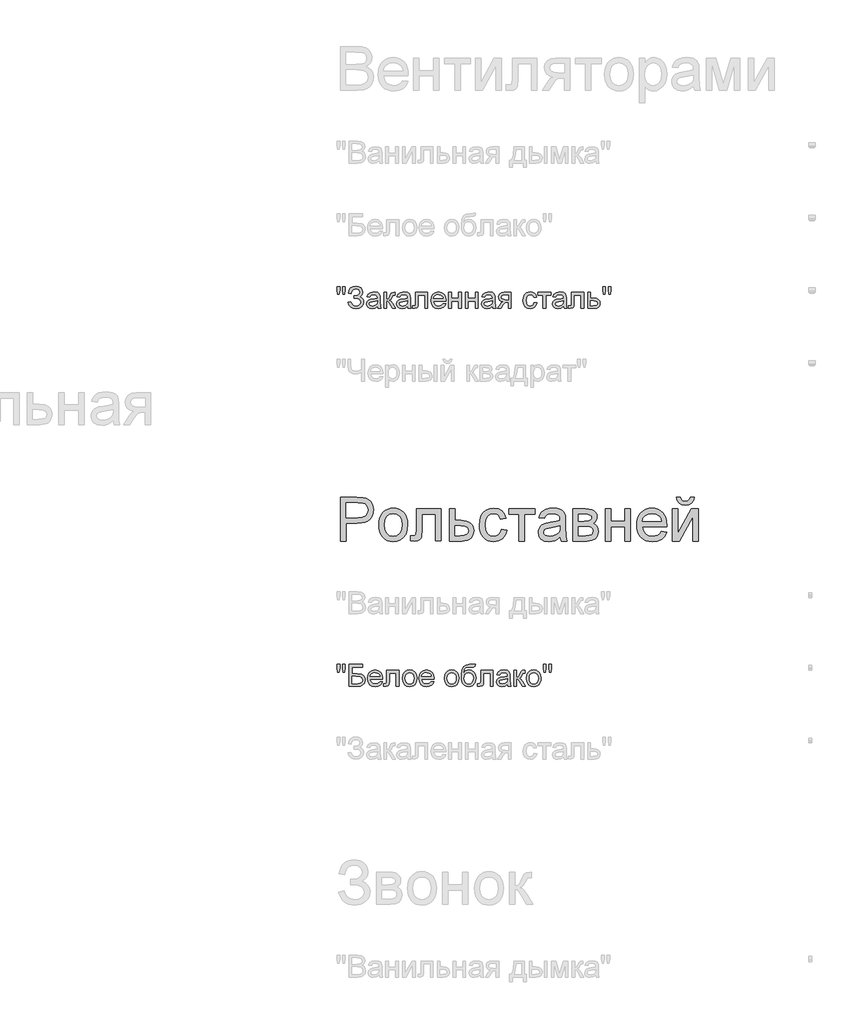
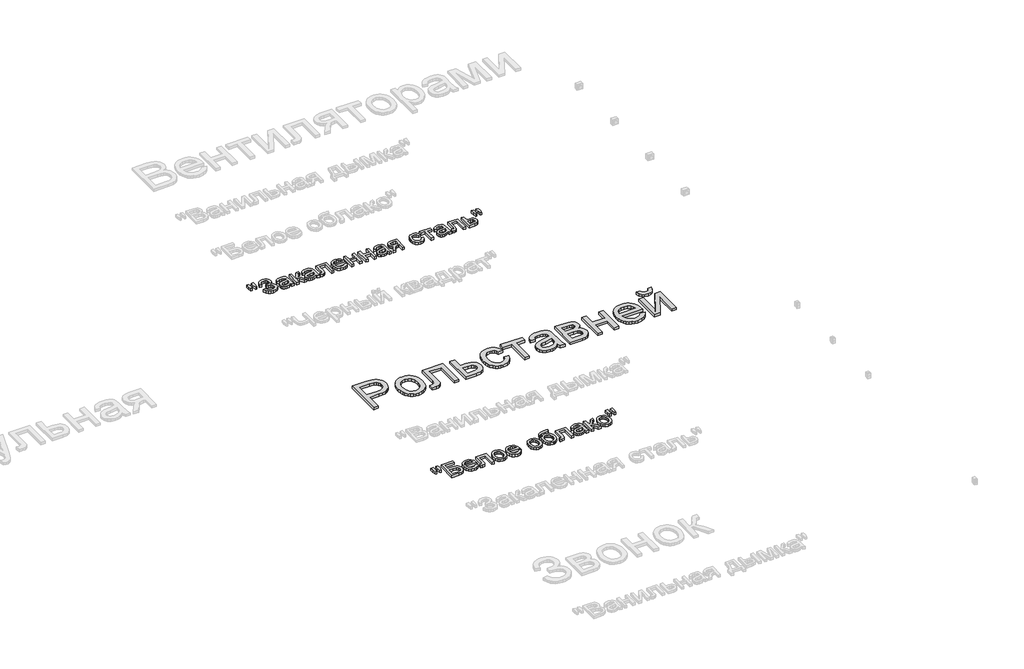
# One storey, part 70 of 168: 3 proxies.
"""IFC4 building model written with IfcOpenShell, lengths in millimetres."""

from ifc_helpers import new_model, si_unit, origin, origin_with_axes, place, context, project, spatial, polyline, outline, extrude, element, save

model = new_model("IFC4")

# Units and contexts
model_context = context("Model", 3, world=origin())
ifc_project = project(units=[si_unit("LENGTHUNIT", "METRE", prefix="MILLI")], contexts=[model_context])

# Site, building, storey
site = spatial("IfcSite", under=ifc_project)
building = spatial("IfcBuilding", under=site)
storey = spatial("IfcBuildingStorey", under=building, Name="Этаж 01", Elevation=0.0)

# Proxies
placement = place(None, origin())
element("IfcBuildingElementProxy", 1, Name="300 мм Arial 2", ObjectType="300 мм Arial 2", at=placement, inside=storey, context=model_context, shape_type="SweptSolid", body=[
    extrude(outline(polyline([(54408.7231967, -35066.8622977), (54408.7231967, -34765.4933673), (54520.4121704, -34765.4933673), (54565.4409266, -34768.3628468), (54585.5180865, -34773.7247269), (54602.0451851, -34782.4527273), (54615.3533163, -34794.942321), (54625.7735738, -34811.5889813), (54632.5058143, -34831.2246828), (54634.7498945, -34852.6814001), (54633.2346805, -34871.181266), (54628.6890386, -34888.2004068), (54621.1129688, -34903.7388225), (54610.506471, -34917.7965133), (54595.9452418, -34929.4491755), (54576.5049776, -34937.7725056), (54552.1856785, -34942.7665037), (54522.9873444, -34944.4311697), (54446.394313, -34944.4311697), (54446.394313, -35066.8622977), (54408.7231967, -35066.8622977)]), holes=[polyline([(54446.394313, -34906.7600534), (54525.1946364, -34906.7600534), (54558.5983215, -34903.3019627), (54580.6712412, -34892.9276904), (54592.976894, -34876.2810301), (54597.0787782, -34854.0057753), (54594.6599541, -34837.0832035), (54587.4034817, -34822.8093821), (54576.210672, -34812.0672279), (54561.9828359, -34805.7396576), (54524.3117196, -34803.1644836), (54446.394313, -34803.1644836), (54446.394313, -34906.7600534)])]), origin_with_axes(), (0.0, 0.0, 1.0), 20.0),
    extrude(outline(polyline([(54672.4210108, -34956.2033936), (54674.4581574, -34927.5407876), (54680.569597, -34902.8421102), (54690.7553298, -34882.1073612), (54705.0153556, -34865.3365408), (54719.3719505, -34854.6173791), (54735.2184674, -34846.9608351), (54752.5549064, -34842.3669087), (54771.3812675, -34840.8355999), (54792.164301, -34842.7003018), (54810.9561732, -34848.2944073), (54827.756884, -34857.6179167), (54842.5664336, -34870.6708297), (54854.6536564, -34887.0116881), (54863.287387, -34906.1990334), (54868.4676253, -34928.2328656), (54870.1943714, -34953.1131848), (54867.1409509, -34991.1705772), (54857.9806892, -35020.1412843), (54842.9803008, -35041.837125), (54822.4065003, -35058.069918), (54797.9699387, -35068.19587), (54771.3812675, -35071.5711873), (54750.2947314, -35069.7133832), (54731.3281153, -35064.139971), (54714.4814192, -35054.8509506), (54699.7546431, -35041.8463221), (54687.796179, -35025.3468146), (54679.2544189, -35005.5731573), (54674.1293628, -34982.5253503), (54672.4210108, -34956.2033936)]), holes=[polyline([(54710.0921271, -34956.1298172), (54714.4515288, -34990.2232811), (54727.5297337, -35014.5126898), (54747.2114204, -35029.0532257), (54771.3812675, -35033.900071), (54795.44075, -35029.0256345), (54815.0856486, -35014.4023252), (54828.1638535, -34989.7910197), (54832.5232551, -34954.9525948), (54828.1362623, -34921.8524123), (54814.975284, -34897.8940973), (54795.3027943, -34883.3535615), (54771.3812675, -34878.5067162), (54747.2114204, -34883.3351674), (54727.5297337, -34897.820521), (54714.4515288, -34922.0547474), (54710.0921271, -34956.1298172)])]), origin_with_axes(), (0.0, 0.0, 1.0), 20.0),
    extrude(outline(polyline([(54931.4099354, -34845.5444894), (55100.9299588, -34845.5444894), (55100.9299588, -35066.6415685), (55063.2588425, -35066.6415685), (55063.2588425, -34883.2156057), (54969.0810517, -34883.2156057), (54969.0810517, -34988.7977384), (54966.542666, -35037.5053145), (54961.7877912, -35048.5325773), (54952.5999383, -35058.069918), (54938.6572107, -35064.6642028), (54919.6377116, -35066.8622977), (54889.0299296, -35064.9493114), (54889.0299296, -35029.1911814), (54905.878925, -35029.1911814), (54922.9118613, -35026.8735249), (54929.7176782, -35019.515885), (54931.4099354, -34986.6640228), (54931.4099354, -34845.5444894)])), origin_with_axes(), (0.0, 0.0, 1.0), 20.0),
    extrude(outline(polyline([(55157.4366333, -34845.5444894), (55195.1077496, -34845.5444894), (55195.1077496, -34925.5956116), (55238.517825, -34925.5956116), (55276.1521531, -34930.3136982), (55291.2996943, -34936.2113064), (55304.0008201, -34944.4679579), (55314.0439986, -34954.7985442), (55321.2176975, -34966.9179567), (55326.9566566, -34996.5232603), (55322.0730232, -35023.4798135), (55307.4221227, -35046.2241178), (55296.1902255, -35055.2533215), (55282.029068, -35061.7027528), (55244.9189717, -35066.8622977), (55157.4366333, -35066.8622977), (55157.4366333, -34845.5444894)]), holes=[polyline([(55195.1077496, -35029.1911814), (55230.2772683, -35029.1911814), (55257.5649153, -35027.2138157), (55275.7106947, -35021.2817185), (55285.8918289, -35011.1557666), (55289.2855403, -34996.5968367), (55286.7747457, -34984.2911839), (55279.2423619, -34973.420271), (55263.1015393, -34965.8051137), (55234.7654287, -34963.2667279), (55195.1077496, -34963.2667279), (55195.1077496, -35029.1911814)])]), origin_with_axes(), (0.0, 0.0, 1.0), 20.0),
    extrude(outline(polyline([(55515.3122382, -34986.8111756), (55552.9833545, -34991.5200651), (55542.4803235, -35025.0249178), (55522.7434545, -35050.3443962), (55495.6305514, -35066.2644895), (55462.9994185, -35071.5711873), (55441.8714956, -35069.720281), (55422.9278721, -35064.1675621), (55406.168548, -35054.9130307), (55391.5935232, -35041.9566867), (55379.7960075, -35025.5422519), (55371.3692105, -35005.9134482), (55366.3131323, -34983.0702755), (55364.6277729, -34957.012734), (55367.5064496, -34923.4894872), (55376.1424794, -34894.4360066), (55390.6738182, -34870.9743324), (55411.2384217, -34854.2265045), (55435.8405302, -34844.1833261), (55462.4843837, -34840.8355999), (55494.3153733, -34845.4341248), (55519.7636103, -34859.2296997), (55538.0197543, -34881.4865604), (55548.2744649, -34911.468943), (55510.6033486, -34916.1778325), (55503.7699406, -34899.7427044), (55493.1289539, -34887.9612835), (55479.2689997, -34880.870358), (55462.7786893, -34878.5067162), (55438.4340982, -34883.1604234), (55419.1110964, -34897.1215452), (55406.501941, -34921.1442394), (55402.2988893, -34955.9826644), (55406.4099705, -34991.2901389), (55418.7432144, -35015.3956066), (55437.7167283, -35029.2739549), (55461.7486197, -35033.900071), (55481.2555625, -35031.0121973), (55497.2492322, -35022.3485763), (55508.8835003, -35007.6884788), (55515.3122382, -34986.8111756)])), origin_with_axes(), (0.0, 0.0, 1.0), 20.0),
    extrude(outline(polyline([(55567.1100231, -34845.5444894), (55746.0478255, -34845.5444894), (55746.0478255, -34883.2156057), (55675.4144825, -34883.2156057), (55675.4144825, -35066.8622977), (55637.7433662, -35066.8622977), (55637.7433662, -34883.2156057), (55567.1100231, -34883.2156057), (55567.1100231, -34845.5444894)])), origin_with_axes(), (0.0, 0.0, 1.0), 20.0),
    extrude(outline(polyline([(55920.2767385, -35038.6089605), (55902.2781118, -35054.0416102), (55883.7460563, -35064.139971), (55864.2575076, -35069.7133832), (55843.3894015, -35071.5711873), (55811.9078997, -35067.101421), (55788.6853488, -35053.6921223), (55774.3655421, -35033.3298539), (55769.5922732, -35008.0011785), (55771.394895, -34992.3845878), (55776.8027603, -34978.2027369), (55785.1444846, -34966.0626311), (55795.7486831, -34956.5712756), (55822.1258221, -34944.2104405), (55854.7201669, -34938.5450578), (55893.2374118, -34932.5853695), (55920.0560093, -34925.5956116), (55920.2767385, -34917.2079021), (55917.6831704, -34900.3956949), (55909.9024662, -34889.3960233), (55892.5016478, -34881.229043), (55868.2582243, -34878.5067162), (55845.8174226, -34880.318535), (55830.1456496, -34885.7539915), (55819.4586777, -34895.806367), (55811.9722791, -34911.468943), (55774.3011628, -34906.7600534), (55780.8402652, -34886.1586617), (55790.5983352, -34869.9718539), (55804.4858805, -34857.5926248), (55823.4134091, -34848.413969), (55846.5623837, -34842.7301922), (55873.1142667, -34840.8355999), (55898.5808978, -34842.509463), (55918.7684223, -34847.5310522), (55933.9895398, -34855.0818302), (55944.5569501, -34864.3432594), (55951.5651022, -34875.7935865), (55956.1084448, -34889.9110581), (55957.9478548, -34922.8732848), (55957.9478548, -34969.741451), (55959.8608411, -35035.1876579), (55967.3656338, -35066.8622977), (55929.6945175, -35066.8622977), (55920.2767385, -35038.6089605)]), holes=[polyline([(55920.2767385, -34963.2667279), (55859.5026329, -34974.8182225), (55827.0922291, -34980.9250637), (55812.4137375, -34990.8578775), (55807.2633895, -35005.3524281), (55810.0684898, -35016.5544349), (55818.4837904, -35025.7330907), (55832.3253505, -35031.8583259), (55851.409229, -35033.900071), (55871.6427387, -35031.6467937), (55889.5218037, -35024.8869621), (55904.0163543, -35014.9265571), (55914.0963209, -35003.0715598), (55918.5660872, -34990.8578775), (55920.0560093, -34973.9353058), (55920.2767385, -34963.2667279)])]), origin_with_axes(), (0.0, 0.0, 1.0), 20.0),
    extrude(outline(polyline([(56009.7456397, -34845.5444894), (56092.7398178, -34845.5444894), (56119.4204595, -34846.8044853), (56138.2468206, -34850.5844728), (56152.0975777, -34857.7213835), (56163.8514075, -34869.0521489), (56171.880432, -34883.813414), (56174.5567735, -34901.2418235), (56172.9380927, -34915.2857187), (56168.0820504, -34927.3982334), (56159.9702524, -34937.6345499), (56148.5843047, -34946.0498505), (56162.5270323, -34953.87654), (56173.8945859, -34966.4673013), (56181.4545609, -34982.828853), (56183.9745526, -35001.9679138), (56177.5918, -35030.6811035), (56162.4166677, -35050.8962191), (56138.3939734, -35062.8707781), (56105.4685348, -35066.8622977), (56009.7456397, -35066.8622977), (56009.7456397, -34845.5444894)]), holes=[polyline([(56047.416756, -34930.3045011), (56084.6464139, -34930.3045011), (56115.3645605, -34928.3915147), (56130.3005695, -34920.7395692), (56135.2393853, -34914.4119989), (56136.8856572, -34906.9072062), (56133.9977836, -34895.6684113), (56125.3341626, -34888.4395301), (56109.6807837, -34884.5215868), (56085.8236363, -34883.2156057), (56047.416756, -34883.2156057), (56047.416756, -34930.3045011)]), polyline([(56047.416756, -35029.1911814), (56093.6227346, -35029.1911814), (56118.8042572, -35027.4897272), (56134.6047889, -35022.3853645), (56143.0844688, -35013.1055412), (56146.3034363, -34998.877705), (56144.6939526, -34989.4507289), (56139.8655014, -34980.7411227), (56132.4526792, -34973.9261087), (56123.0900824, -34970.1829094), (56089.9439146, -34967.9756174), (56047.416756, -34967.9756174), (56047.416756, -35029.1911814)])]), origin_with_axes(), (0.0, 0.0, 1.0), 20.0),
    extrude(outline(polyline([(56231.063448, -34845.5444894), (56268.7345643, -34845.5444894), (56268.7345643, -34930.3045011), (56367.6212446, -34930.3045011), (56367.6212446, -34845.5444894), (56405.2923609, -34845.5444894), (56405.2923609, -35066.8622977), (56367.6212446, -35066.8622977), (56367.6212446, -34967.9756174), (56268.7345643, -34967.9756174), (56268.7345643, -35066.8622977), (56231.063448, -35066.8622977), (56231.063448, -34845.5444894)])), origin_with_axes(), (0.0, 0.0, 1.0), 20.0),
    extrude(outline(polyline([(56616.7509317, -35000.9378442), (56653.686284, -35005.6467337), (56640.3781529, -35033.4770067), (56619.1421647, -35054.2807335), (56590.4565661, -35067.2485738), (56554.7996037, -35071.5711873), (56531.4253015, -35069.7064854), (56510.598582, -35064.1123798), (56492.3194454, -35054.7888705), (56476.5878916, -35041.7359575), (56463.9373495, -35025.3169242), (56454.901248, -35005.8950541), (56449.479587, -34983.4703472), (56447.6723667, -34958.0428036), (56449.4979811, -34931.7530365), (56454.9748244, -34908.5810693), (56464.1028964, -34888.526902), (56476.8821972, -34871.5905347), (56492.5723643, -34858.1352507), (56510.4330351, -34848.5243336), (56530.4642098, -34842.7577833), (56552.6658882, -34840.8355999), (56574.152496, -34842.7531848), (56593.5835631, -34848.5059395), (56610.9590896, -34858.093864), (56626.2790754, -34871.5169583), (56638.784764, -34888.4165374), (56647.7173987, -34908.4339165), (56653.0769795, -34931.5690955), (56654.8635064, -34957.8220744), (56654.6427772, -34967.9756174), (56485.3434831, -34967.9756174), (56491.8641914, -34996.1737724), (56507.0117326, -35016.9039228), (56528.8731201, -35029.6510339), (56555.5353677, -35033.900071), (56575.5849365, -35031.9319023), (56592.47072, -35026.0273963), (56606.1927185, -35015.8186709), (56616.7509317, -35000.9378442)]), holes=[polyline([(56485.3434831, -34930.3045011), (56617.1923901, -34930.3045011), (56612.0972245, -34910.4020852), (56602.1092283, -34896.165052), (56580.1466732, -34882.9213001), (56552.5187354, -34878.5067162), (56527.1256807, -34882.0291863), (56506.1288158, -34892.5965966), (56491.5330976, -34909.068513), (56485.3434831, -34930.3045011)])]), origin_with_axes(), (0.0, 0.0, 1.0), 20.0),
    extrude(outline(polyline([(56692.5346227, -34845.5444894), (56730.205739, -34845.5444894), (56730.205739, -35014.3287488), (56822.764849, -34845.5444894), (56871.4724252, -34845.5444894), (56871.4724252, -35066.8622977), (56833.8013089, -35066.8622977), (56833.8013089, -34899.1081079), (56741.8308101, -35066.8622977), (56692.5346227, -35066.8622977), (56692.5346227, -34845.5444894)])), origin_with_axes(), (0.0, 0.0, 1.0), 20.0),
    extrude(outline(polyline([(56814.9657507, -34765.4933673), (56843.219088, -34765.4933673), (56837.139838, -34789.6172291), (56824.9353528, -34807.3951265), (56807.1574554, -34818.3488129), (56784.3579687, -34822.0000417), (56759.6179046, -34818.3764041), (56740.4328585, -34807.5054911), (56727.3178654, -34789.7551849), (56720.78796, -34765.4933673), (56749.0412972, -34765.4933673), (56753.0144227, -34777.9001876), (56759.6362987, -34786.7201584), (56768.9437131, -34791.990068), (56780.9734544, -34793.7467045), (56794.5483, -34792.0452503), (56804.3707493, -34786.9408876), (56810.9926252, -34778.1760991), (56814.9657507, -34765.4933673)])), origin_with_axes(), (0.0, 0.0, 1.0), 20.0),
])
element("IfcBuildingElementProxy", 2, Name="150", ObjectType="150", at=placement, inside=storey, context=model_context, shape_type="SweptSolid", body=[
    extrude(outline(polyline([(54389.7772739, -33370.3300622), (54385.178749, -33341.2305964), (54385.178749, -33316.1778325), (54404.0143071, -33316.1778325), (54404.0143071, -33341.2305964), (54399.8940288, -33370.3300622), (54389.7772739, -33370.3300622)])), origin_with_axes(), (0.0, 0.0, 1.0), 20.0),
    extrude(outline(polyline([(54427.3380256, -33370.3300622), (54422.8498653, -33341.2305964), (54422.8498653, -33316.1778325), (54441.6854234, -33316.1778325), (54441.6854234, -33341.2305964), (54437.2708395, -33370.3300622), (54427.3380256, -33370.3300622)])), origin_with_axes(), (0.0, 0.0, 1.0), 20.0),
    extrude(outline(polyline([(54460.5209816, -33424.4822919), (54479.3565398, -33419.7734024), (54490.9264285, -33440.172459), (54501.8571223, -33447.829003), (54515.8504337, -33450.3811843), (54530.0276861, -33448.4635995), (54540.8480152, -33442.7108448), (54547.7044159, -33434.2449603), (54549.9898828, -33424.1879863), (54547.4928838, -33413.6527657), (54540.0018867, -33405.517975), (54528.2066702, -33400.3170433), (54512.7970131, -33398.5833994), (54502.9009874, -33398.5833994), (54502.9009874, -33379.7478413), (54524.2197491, -33378.221131), (54537.2611658, -33370.4220327), (54542.9265485, -33356.1666054), (54541.0411533, -33347.2960508), (54535.3849676, -33339.6670979), (54526.5098145, -33334.4109839), (54514.9675169, -33332.6589459), (54495.7456826, -33338.0484171), (54484.746011, -33352.3406326), (54481.7109845, -33365.6211727), (54462.8754264, -33360.9122831), (54468.7270494, -33340.3108914), (54479.3289486, -33325.5956116), (54494.6811241, -33316.7664437), (54514.7835759, -33313.8233877), (54534.1755556, -33316.8814068), (54549.0885719, -33326.0554641), (54558.593723, -33339.3222085), (54561.7621067, -33354.6582892), (54556.8324879, -33373.3007093), (54542.0436317, -33387.2158458), (54552.5190715, -33392.0396984), (54561.1367073, -33400.1836861), (54566.9032576, -33410.948833), (54568.825441, -33423.6361633), (54565.137424, -33441.4738415), (54554.073373, -33456.1385376), (54536.9208749, -33465.9471913), (54514.9675169, -33469.2167425), (54495.8652443, -33466.4208393), (54480.4233975, -33458.0331298), (54468.6419766, -33444.053614), (54460.5209816, -33424.4822919)])), origin_with_axes(), (0.0, 0.0, 1.0), 20.0),
    extrude(outline(polyline([(54663.0032317, -33452.7356291), (54644.7378907, -33465.5011344), (54624.5595633, -33469.2167425), (54608.8188124, -33466.9818594), (54597.2075369, -33460.27721), (54590.0476336, -33450.0960758), (54587.6609991, -33437.4317381), (54591.2662427, -33422.5325173), (54600.7392041, -33411.7167867), (54613.9277736, -33405.5363691), (54630.224946, -33402.7036778), (54662.8928671, -33396.2289547), (54663.0032317, -33392.0350999), (54661.7064477, -33383.6289963), (54657.8160956, -33378.1291605), (54649.1156864, -33374.0456704), (54636.9939747, -33372.684507), (54617.9376873, -33376.3081446), (54608.8510021, -33389.1656204), (54590.0154439, -33386.8111756), (54598.1640301, -33368.4170758), (54614.5715671, -33357.6381334), (54639.4219959, -33353.8489488), (54662.2490737, -33357.196675), (54675.1433376, -33365.6027786), (54680.9190849, -33378.3866779), (54681.8387899, -33394.8677913), (54681.8387899, -33418.3018744), (54682.7952831, -33451.0249778), (54686.5476794, -33466.8622977), (54667.7121213, -33466.8622977), (54663.0032317, -33452.7356291)]), holes=[polyline([(54663.0032317, -33415.0645128), (54632.6161789, -33420.8402601), (54616.4109771, -33423.8936807), (54609.0717313, -33428.8600876), (54606.4965573, -33436.1073629), (54612.1067577, -33446.2976942), (54628.569477, -33450.3811843), (54647.6257643, -33445.8746299), (54659.913023, -33434.9669288), (54662.8928671, -33420.3988017), (54663.0032317, -33415.0645128)])]), origin_with_axes(), (0.0, 0.0, 1.0), 20.0),
    extrude(outline(polyline([(54707.7376824, -33356.2033936), (54726.5732405, -33356.2033936), (54726.5732405, -33403.292289), (54739.1915929, -33399.9077746), (54749.529077, -33380.1892997), (54758.1191216, -33363.1747574), (54765.6974907, -33357.6381334), (54779.4746714, -33356.2033936), (54783.079915, -33356.2033936), (54783.079915, -33375.1493163), (54778.0031434, -33375.0389517), (54768.8060936, -33377.0255145), (54762.3313704, -33389.4231377), (54754.7346072, -33402.8324365), (54744.0844235, -33409.3991301), (54755.9670119, -33416.7291788), (54767.6288712, -33432.1710256), (54787.7888045, -33466.8622977), (54766.3780724, -33466.8622977), (54746.6228092, -33432.9067896), (54736.6899954, -33418.5409977), (54726.5732405, -33415.0645128), (54726.5732405, -33466.8622977), (54707.7376824, -33466.8622977), (54707.7376824, -33356.2033936)])), origin_with_axes(), (0.0, 0.0, 1.0), 20.0),
    extrude(outline(polyline([(54870.1943714, -33452.7356291), (54851.9290304, -33465.5011344), (54831.7507029, -33469.2167425), (54816.0099521, -33466.9818594), (54804.3986766, -33460.27721), (54797.2387733, -33450.0960758), (54794.8521388, -33437.4317381), (54798.4573824, -33422.5325173), (54807.9303437, -33411.7167867), (54821.1189133, -33405.5363691), (54837.4160857, -33402.7036778), (54870.0840068, -33396.2289547), (54870.1943714, -33392.0350999), (54868.8975874, -33383.6289963), (54865.0072353, -33378.1291605), (54856.3068261, -33374.0456704), (54844.1851144, -33372.684507), (54825.128827, -33376.3081446), (54816.0421417, -33389.1656204), (54797.2065836, -33386.8111756), (54805.3551698, -33368.4170758), (54821.7627068, -33357.6381334), (54846.6131355, -33353.8489488), (54869.4402133, -33357.196675), (54882.3344773, -33365.6027786), (54888.1102246, -33378.3866779), (54889.0299296, -33394.8677913), (54889.0299296, -33418.3018744), (54889.9864228, -33451.0249778), (54893.7388191, -33466.8622977), (54874.903261, -33466.8622977), (54870.1943714, -33452.7356291)]), holes=[polyline([(54870.1943714, -33415.0645128), (54839.8073186, -33420.8402601), (54823.6021167, -33423.8936807), (54816.2628709, -33428.8600876), (54813.687697, -33436.1073629), (54819.2978974, -33446.2976942), (54835.7606167, -33450.3811843), (54854.816904, -33445.8746299), (54867.1041627, -33434.9669288), (54870.0840068, -33420.3988017), (54870.1943714, -33415.0645128)])]), origin_with_axes(), (0.0, 0.0, 1.0), 20.0),
    extrude(outline(polyline([(54924.3466011, -33356.2033936), (55009.1066128, -33356.2033936), (55009.1066128, -33466.7519331), (54990.2710547, -33466.7519331), (54990.2710547, -33375.0389517), (54943.1821593, -33375.0389517), (54943.1821593, -33427.830018), (54941.9129664, -33452.1838061), (54934.9416026, -33462.4661079), (54918.4604892, -33466.8622977), (54903.1565982, -33465.9058045), (54903.1565982, -33448.0267396), (54911.5810959, -33448.0267396), (54920.0975641, -33446.8679113), (54923.5004725, -33443.1890913), (54924.3466011, -33426.7631603), (54924.3466011, -33356.2033936)])), origin_with_axes(), (0.0, 0.0, 1.0), 20.0),
    extrude(outline(polyline([(55114.8358982, -33433.900071), (55133.3035744, -33436.2545157), (55126.6495088, -33450.1696522), (55116.0315147, -33460.5715156), (55101.6887154, -33467.0554358), (55083.8602342, -33469.2167425), (55061.7597234, -33465.4873388), (55044.7543781, -33454.2991276), (55033.9110563, -33436.3786759), (55030.2966157, -33412.4525506), (55033.9478445, -33387.7216835), (55044.9015309, -33369.2264162), (55061.6769499, -33357.6933157), (55082.7933764, -33353.8489488), (55103.2522139, -33357.6841186), (55119.5999701, -33369.189628), (55130.3191317, -33387.6481071), (55133.8921856, -33412.342186), (55133.781821, -33417.4189576), (55049.1321739, -33417.4189576), (55052.3925281, -33431.518035), (55059.9662986, -33441.8831103), (55070.8969924, -33448.2566658), (55084.2281162, -33450.3811843), (55102.6957924, -33446.444847), (55114.8358982, -33433.900071)]), holes=[polyline([(55049.1321739, -33398.5833994), (55115.0566274, -33398.5833994), (55112.5090446, -33388.6321915), (55107.5150465, -33381.5136749), (55096.533769, -33374.8917989), (55082.7198, -33372.684507), (55070.0232727, -33374.445742), (55059.5248402, -33379.7294472), (55052.2269812, -33387.9654053), (55049.1321739, -33398.5833994)])]), origin_with_axes(), (0.0, 0.0, 1.0), 20.0),
    extrude(outline(polyline([(55152.7277437, -33356.2033936), (55171.5633019, -33356.2033936), (55171.5633019, -33398.5833994), (55221.006642, -33398.5833994), (55221.006642, -33356.2033936), (55239.8422002, -33356.2033936), (55239.8422002, -33466.8622977), (55221.006642, -33466.8622977), (55221.006642, -33417.4189576), (55171.5633019, -33417.4189576), (55171.5633019, -33466.8622977), (55152.7277437, -33466.8622977), (55152.7277437, -33356.2033936)])), origin_with_axes(), (0.0, 0.0, 1.0), 20.0),
    extrude(outline(polyline([(55268.0955374, -33356.2033936), (55286.9310956, -33356.2033936), (55286.9310956, -33398.5833994), (55336.3744357, -33398.5833994), (55336.3744357, -33356.2033936), (55355.2099939, -33356.2033936), (55355.2099939, -33466.8622977), (55336.3744357, -33466.8622977), (55336.3744357, -33417.4189576), (55286.9310956, -33417.4189576), (55286.9310956, -33466.8622977), (55268.0955374, -33466.8622977), (55268.0955374, -33356.2033936)])), origin_with_axes(), (0.0, 0.0, 1.0), 20.0),
    extrude(outline(polyline([(55454.0966742, -33452.7356291), (55435.8313331, -33465.5011344), (55415.6530057, -33469.2167425), (55399.9122548, -33466.9818594), (55388.3009793, -33460.27721), (55381.141076, -33450.0960758), (55378.7544416, -33437.4317381), (55382.3596851, -33422.5325173), (55391.8326465, -33411.7167867), (55405.021216, -33405.5363691), (55421.3183884, -33402.7036778), (55453.9863096, -33396.2289547), (55454.0966742, -33392.0350999), (55452.7998901, -33383.6289963), (55448.909538, -33378.1291605), (55440.2091289, -33374.0456704), (55428.0874171, -33372.684507), (55409.0311298, -33376.3081446), (55399.9444445, -33389.1656204), (55381.1088863, -33386.8111756), (55389.2574725, -33368.4170758), (55405.6650095, -33357.6381334), (55430.5154383, -33353.8489488), (55453.3425161, -33357.196675), (55466.23678, -33365.6027786), (55472.0125273, -33378.3866779), (55472.9322323, -33394.8677913), (55472.9322323, -33418.3018744), (55473.8887255, -33451.0249778), (55477.6411219, -33466.8622977), (55458.8055637, -33466.8622977), (55454.0966742, -33452.7356291)]), holes=[polyline([(55454.0966742, -33415.0645128), (55423.7096214, -33420.8402601), (55407.5044195, -33423.8936807), (55400.1651737, -33428.8600876), (55397.5899997, -33436.1073629), (55403.2002001, -33446.2976942), (55419.6629194, -33450.3811843), (55438.7192068, -33445.8746299), (55451.0064654, -33434.9669288), (55453.9863096, -33420.3988017), (55454.0966742, -33415.0645128)])]), origin_with_axes(), (0.0, 0.0, 1.0), 20.0),
    extrude(outline(polyline([(55583.5911365, -33356.2033936), (55583.5911365, -33466.8622977), (55564.7555783, -33466.8622977), (55564.7555783, -33424.4822919), (55554.4916707, -33424.4822919), (55540.5121548, -33426.8735249), (55527.3787676, -33442.949968), (55512.3691822, -33466.8622977), (55490.5905681, -33466.8622977), (55509.4997026, -33436.6223977), (55517.8506239, -33425.7698789), (55525.5393576, -33420.9506247), (55512.6634878, -33417.0050903), (55503.6135907, -33409.5094947), (55498.2609077, -33399.5398926), (55496.47668, -33388.172339), (55498.9138982, -33375.278075), (55506.2255529, -33365.0693497), (55518.1541266, -33358.4198826), (55534.4421019, -33356.2033936), (55583.5911365, -33356.2033936)]), holes=[polyline([(55564.7555783, -33375.0389517), (55539.9235436, -33375.0389517), (55527.0982576, -33376.1288021), (55519.8187926, -33379.3983534), (55515.3122382, -33389.6070787), (55516.9723057, -33396.7853762), (55521.9525082, -33401.7655787), (55545.4785618, -33405.6467337), (55564.7555783, -33405.6467337), (55564.7555783, -33375.0389517)])]), origin_with_axes(), (0.0, 0.0, 1.0), 20.0),
    extrude(outline(polyline([(55741.338936, -33426.8367367), (55760.1744942, -33429.1911814), (55754.9229787, -33445.9436078), (55745.0545442, -33458.6033469), (55731.4980926, -33466.5633936), (55715.1825262, -33469.2167425), (55695.146753, -33465.5149299), (55679.4795785, -33454.4094922), (55669.3674222, -33436.387873), (55665.9967034, -33411.9375159), (55667.4360417, -33395.1758924), (55671.7540566, -33380.6491522), (55679.019726, -33368.918315), (55689.3020278, -33360.5444011), (55701.603082, -33355.5228119), (55714.9250088, -33353.8489488), (55730.8405036, -33356.1482113), (55743.5646221, -33363.0459987), (55752.6926941, -33374.174429), (55757.8200494, -33389.1656204), (55738.9844912, -33391.5200651), (55730.2472939, -33377.4117906), (55715.0721616, -33372.684507), (55702.899866, -33375.0113606), (55693.2383651, -33381.9919214), (55686.9337874, -33394.0032686), (55684.8322615, -33411.4224811), (55686.8878022, -33429.0762183), (55693.0544241, -33441.1289522), (55702.5411811, -33448.0681263), (55714.5571268, -33450.3811843), (55724.3105982, -33448.9372475), (55732.307433, -33444.605437), (55738.1245671, -33437.2753883), (55741.338936, -33426.8367367)])), origin_with_axes(), (0.0, 0.0, 1.0), 20.0),
    extrude(outline(polyline([(55767.2378285, -33356.2033936), (55856.7067297, -33356.2033936), (55856.7067297, -33375.0389517), (55821.3900582, -33375.0389517), (55821.3900582, -33466.8622977), (55802.5545, -33466.8622977), (55802.5545, -33375.0389517), (55767.2378285, -33375.0389517), (55767.2378285, -33356.2033936)])), origin_with_axes(), (0.0, 0.0, 1.0), 20.0),
    extrude(outline(polyline([(55943.8211862, -33452.7356291), (55925.5558451, -33465.5011344), (55905.3775177, -33469.2167425), (55889.6367668, -33466.9818594), (55878.0254913, -33460.27721), (55870.865588, -33450.0960758), (55868.4789535, -33437.4317381), (55872.0841971, -33422.5325173), (55881.5571585, -33411.7167867), (55894.745728, -33405.5363691), (55911.0429004, -33402.7036778), (55943.7108216, -33396.2289547), (55943.8211862, -33392.0350999), (55942.5244021, -33383.6289963), (55938.63405, -33378.1291605), (55929.9336408, -33374.0456704), (55917.8119291, -33372.684507), (55898.7556417, -33376.3081446), (55889.6689565, -33389.1656204), (55870.8333983, -33386.8111756), (55878.9819845, -33368.4170758), (55895.3895215, -33357.6381334), (55920.2399503, -33353.8489488), (55943.0670281, -33357.196675), (55955.961292, -33365.6027786), (55961.7370393, -33378.3866779), (55962.6567443, -33394.8677913), (55962.6567443, -33418.3018744), (55963.6132375, -33451.0249778), (55967.3656338, -33466.8622977), (55948.5300757, -33466.8622977), (55943.8211862, -33452.7356291)]), holes=[polyline([(55943.8211862, -33415.0645128), (55913.4341334, -33420.8402601), (55897.2289315, -33423.8936807), (55889.8896857, -33428.8600876), (55887.3145117, -33436.1073629), (55892.9247121, -33446.2976942), (55909.3874314, -33450.3811843), (55928.4437188, -33445.8746299), (55940.7309774, -33434.9669288), (55943.7108216, -33420.3988017), (55943.8211862, -33415.0645128)])]), origin_with_axes(), (0.0, 0.0, 1.0), 20.0),
    extrude(outline(polyline([(55997.9734158, -33356.2033936), (56082.7334275, -33356.2033936), (56082.7334275, -33466.7519331), (56063.8978694, -33466.7519331), (56063.8978694, -33375.0389517), (56016.808974, -33375.0389517), (56016.808974, -33427.830018), (56015.5397811, -33452.1838061), (56008.5684173, -33462.4661079), (55992.0873039, -33466.8622977), (55976.7834129, -33465.9058045), (55976.7834129, -33448.0267396), (55985.2079106, -33448.0267396), (55993.7243788, -33446.8679113), (55997.1272873, -33443.1890913), (55997.9734158, -33426.7631603), (55997.9734158, -33356.2033936)])), origin_with_axes(), (0.0, 0.0, 1.0), 20.0),
    extrude(outline(polyline([(56110.9867648, -33356.2033936), (56129.8223229, -33356.2033936), (56129.8223229, -33396.2289547), (56151.5273606, -33396.2289547), (56170.3445247, -33398.587998), (56184.2688582, -33405.6651278), (56192.8772969, -33416.8901272), (56195.7467765, -33431.692779), (56193.3049597, -33445.1710556), (56185.9795095, -33456.5432078), (56173.2829821, -33464.2825252), (56154.727934, -33466.8622977), (56110.9867648, -33466.8622977), (56110.9867648, -33356.2033936)]), holes=[polyline([(56129.8223229, -33448.0267396), (56147.4070823, -33448.0267396), (56170.1237955, -33444.0720081), (56175.2143626, -33439.0090322), (56176.9112183, -33431.7295672), (56171.8896291, -33420.1412843), (56163.8192178, -33416.3337057), (56149.6511625, -33415.0645128), (56129.8223229, -33415.0645128), (56129.8223229, -33448.0267396)])]), origin_with_axes(), (0.0, 0.0, 1.0), 20.0),
    extrude(outline(polyline([(56219.1808595, -33370.3300622), (56214.5823346, -33341.2305964), (56214.5823346, -33316.1778325), (56233.4178928, -33316.1778325), (56233.4178928, -33341.2305964), (56229.2976144, -33370.3300622), (56219.1808595, -33370.3300622)])), origin_with_axes(), (0.0, 0.0, 1.0), 20.0),
    extrude(outline(polyline([(56256.7416113, -33370.3300622), (56252.2534509, -33341.2305964), (56252.2534509, -33316.1778325), (56271.0890091, -33316.1778325), (56271.0890091, -33341.2305964), (56266.6744251, -33370.3300622), (56256.7416113, -33370.3300622)])), origin_with_axes(), (0.0, 0.0, 1.0), 20.0),
])
element("IfcBuildingElementProxy", 3, Name="150", ObjectType="150", at=placement, inside=storey, context=model_context, shape_type="SweptSolid", body=[
    extrude(outline(polyline([(54389.7772739, -35970.3300622), (54385.178749, -35941.2305964), (54385.178749, -35916.1778325), (54404.0143071, -35916.1778325), (54404.0143071, -35941.2305964), (54399.8940288, -35970.3300622), (54389.7772739, -35970.3300622)])), origin_with_axes(), (0.0, 0.0, 1.0), 20.0),
    extrude(outline(polyline([(54427.3380256, -35970.3300622), (54422.8498653, -35941.2305964), (54422.8498653, -35916.1778325), (54441.6854234, -35916.1778325), (54441.6854234, -35941.2305964), (54437.2708395, -35970.3300622), (54427.3380256, -35970.3300622)])), origin_with_axes(), (0.0, 0.0, 1.0), 20.0),
    extrude(outline(polyline([(54467.5843159, -35916.1778325), (54561.7621067, -35916.1778325), (54561.7621067, -35935.0133907), (54486.4198741, -35935.0133907), (54486.4198741, -35979.7478413), (54521.6997574, -35979.7478413), (54552.785786, -35983.573814), (54563.1876494, -35989.101241), (54571.2902503, -35998.0315764), (54576.5049776, -36009.5278888), (54578.2432201, -36022.7532465), (54573.2952072, -36044.2191609), (54558.5247451, -36060.5347274), (54545.2534021, -36065.2804052), (54525.0842718, -36066.8622977), (54467.5843159, -36066.8622977), (54467.5843159, -35916.1778325)]), holes=[polyline([(54486.4198741, -36048.0267396), (54526.7765289, -36048.0267396), (54541.0411533, -36046.4724382), (54551.2406816, -36041.8095339), (54557.3659168, -36034.0380267), (54559.4076619, -36023.1579167), (54554.7355606, -36008.4058487), (54541.730932, -36000.533174), (54513.3488361, -35998.5833994), (54486.4198741, -35998.5833994), (54486.4198741, -36048.0267396)])]), origin_with_axes(), (0.0, 0.0, 1.0), 20.0),
    extrude(outline(polyline([(54679.2636159, -36033.900071), (54697.7312921, -36036.2545157), (54691.0772265, -36050.1696522), (54680.4592324, -36060.5715156), (54666.1164331, -36067.0554358), (54648.2879519, -36069.2167425), (54626.1874411, -36065.4873388), (54609.1820959, -36054.2991276), (54598.338774, -36036.3786759), (54594.7243334, -36012.4525506), (54598.3755622, -35987.7216835), (54609.3292486, -35969.2264162), (54626.1046676, -35957.6933157), (54647.2210942, -35953.8489488), (54667.6799316, -35957.6841186), (54684.0276878, -35969.189628), (54694.7468494, -35987.6481071), (54698.3199033, -36012.342186), (54698.2095387, -36017.4189576), (54613.5598916, -36017.4189576), (54616.8202458, -36031.518035), (54624.3940164, -36041.8831103), (54635.3247101, -36048.2566658), (54648.6558339, -36050.3811843), (54667.1235101, -36046.444847), (54679.2636159, -36033.900071)]), holes=[polyline([(54613.5598916, -35998.5833994), (54679.4843451, -35998.5833994), (54676.9367623, -35988.6321915), (54671.9427642, -35981.5136749), (54660.9614867, -35974.8917989), (54647.1475178, -35972.684507), (54634.4509904, -35974.445742), (54623.952558, -35979.7294472), (54616.6546989, -35987.9654053), (54613.5598916, -35998.5833994)])]), origin_with_axes(), (0.0, 0.0, 1.0), 20.0),
    extrude(outline(polyline([(54726.5732405, -35956.2033936), (54811.3332522, -35956.2033936), (54811.3332522, -36066.7519331), (54792.497694, -36066.7519331), (54792.497694, -35975.0389517), (54745.4087987, -35975.0389517), (54745.4087987, -36027.830018), (54744.1396058, -36052.1838061), (54737.168242, -36062.4661079), (54720.6871286, -36066.8622977), (54705.3832376, -36065.9058045), (54705.3832376, -36048.0267396), (54713.8077353, -36048.0267396), (54722.3242035, -36046.8679113), (54725.7271119, -36043.1890913), (54726.5732405, -36026.7631603), (54726.5732405, -35956.2033936)])), origin_with_axes(), (0.0, 0.0, 1.0), 20.0),
    extrude(outline(polyline([(54834.8776999, -36011.5328457), (54838.951993, -35984.852204), (54851.1748723, -35966.0994193), (54866.2764282, -35956.9115664), (54884.3578282, -35953.8489488), (54904.1452811, -35957.5783525), (54919.9504113, -35968.7665637), (54930.310888, -35986.5306656), (54933.7643802, -36009.9877413), (54932.2376699, -36029.0164375), (54927.6575391, -36043.501791), (54920.1573449, -36054.3497114), (54909.8704446, -36062.4661079), (54897.6521638, -36067.5290839), (54884.3578282, -36069.2167425), (54864.3312521, -36065.5011344), (54848.544516, -36054.3543099), (54838.2944039, -36036.2177275), (54834.8776999, -36011.5328457)]), holes=[polyline([(54853.713258, -36011.4960575), (54855.8929589, -36028.5427894), (54862.4320613, -36040.6874938), (54872.2729047, -36047.9577617), (54884.3578282, -36050.3811843), (54896.3875695, -36047.9439661), (54906.2100188, -36040.6323115), (54912.7491212, -36028.3266587), (54914.928822, -36010.9074463), (54912.7353256, -35994.357355), (54906.1548365, -35982.3781975), (54896.3185916, -35975.1079296), (54884.3578282, -35972.684507), (54872.2729047, -35975.0987326), (54862.4320613, -35982.3414093), (54855.8929589, -35994.4585226), (54853.713258, -36011.4960575)])]), origin_with_axes(), (0.0, 0.0, 1.0), 20.0),
    extrude(outline(polyline([(55032.4303313, -36033.900071), (55050.8980075, -36036.2545157), (55044.2439419, -36050.1696522), (55033.6259478, -36060.5715156), (55019.2831485, -36067.0554358), (55001.4546673, -36069.2167425), (54979.3541564, -36065.4873388), (54962.3488112, -36054.2991276), (54951.5054894, -36036.3786759), (54947.8910488, -36012.4525506), (54951.5422776, -35987.7216835), (54962.495964, -35969.2264162), (54979.271383, -35957.6933157), (55000.3878095, -35953.8489488), (55020.846647, -35957.6841186), (55037.1944031, -35969.189628), (55047.9135648, -35987.6481071), (55051.4866187, -36012.342186), (55051.3762541, -36017.4189576), (54966.726607, -36017.4189576), (54969.9869611, -36031.518035), (54977.5607317, -36041.8831103), (54988.4914255, -36048.2566658), (55001.8225493, -36050.3811843), (55020.2902255, -36046.444847), (55032.4303313, -36033.900071)]), holes=[polyline([(54966.726607, -35998.5833994), (55032.6510605, -35998.5833994), (55030.1034777, -35988.6321915), (55025.1094796, -35981.5136749), (55014.128202, -35974.8917989), (55000.3142331, -35972.684507), (54987.6177058, -35974.445742), (54977.1192733, -35979.7294472), (54969.8214142, -35987.9654053), (54966.726607, -35998.5833994)])]), origin_with_axes(), (0.0, 0.0, 1.0), 20.0),
    extrude(outline(polyline([(55124.4744065, -36011.5328457), (55128.5486996, -35984.852204), (55140.7715789, -35966.0994193), (55155.8731348, -35956.9115664), (55173.9545348, -35953.8489488), (55193.7419877, -35957.5783525), (55209.5471179, -35968.7665637), (55219.9075946, -35986.5306656), (55223.3610868, -36009.9877413), (55221.8343765, -36029.0164375), (55217.2542457, -36043.501791), (55209.7540515, -36054.3497114), (55199.4671512, -36062.4661079), (55187.2488704, -36067.5290839), (55173.9545348, -36069.2167425), (55153.9279587, -36065.5011344), (55138.1412226, -36054.3543099), (55127.8911105, -36036.2177275), (55124.4744065, -36011.5328457)]), holes=[polyline([(55143.3099646, -36011.4960575), (55145.4896655, -36028.5427894), (55152.0287679, -36040.6874938), (55161.8696113, -36047.9577617), (55173.9545348, -36050.3811843), (55185.9842761, -36047.9439661), (55195.8067254, -36040.6323115), (55202.3458278, -36028.3266587), (55204.5255286, -36010.9074463), (55202.3320323, -35994.357355), (55195.7515431, -35982.3781975), (55185.9152982, -35975.1079296), (55173.9545348, -35972.684507), (55161.8696113, -35975.0987326), (55152.0287679, -35982.3414093), (55145.4896655, -35994.4585226), (55143.3099646, -36011.4960575)])]), origin_with_axes(), (0.0, 0.0, 1.0), 20.0),
    extrude(outline(polyline([(55322.2477671, -35913.8233877), (55338.7288805, -35913.8233877), (55333.8728382, -35928.5202734), (55324.2711181, -35933.8361683), (55301.204917, -35935.0133907), (55270.1372825, -35939.3543982), (55263.0095688, -35945.0013868), (55258.2179058, -35953.2603376), (55254.189598, -35977.8716431), (55270.5051645, -35959.8454253), (55280.4241828, -35955.3480679), (55291.5296205, -35953.8489488), (55311.1285338, -35957.661126), (55327.030233, -35969.0976575), (55337.5700522, -35987.0365033), (55341.0833253, -36010.3556233), (55339.3404843, -36028.3358558), (55334.1119614, -36042.766027), (55317.5756658, -36062.3189551), (55306.2816885, -36067.4922957), (55291.5296205, -36069.2167425), (55274.5288738, -36066.995655), (55261.7863612, -36060.3323923), (55252.4099688, -36050.2064404), (55245.5075829, -36037.597285), (55241.2585459, -36018.6099755), (55239.8422002, -35989.3495614), (55243.4152541, -35953.2097538), (55254.1344157, -35931.1690238), (55272.2663995, -35919.9256303), (55298.07792, -35916.1778325), (55319.0471937, -35915.7547682), (55322.2477671, -35913.8233877)]), holes=[polyline([(55322.2477671, -36009.7670121), (55320.206022, -35994.9459662), (55314.0807868, -35983.0771733), (55304.2399434, -35975.2826736), (55291.0513739, -35972.684507), (55277.3017843, -35975.4298264), (55267.102256, -35983.6657845), (55260.7838828, -35996.4910706), (55258.6777583, -36013.0043736), (55261.004612, -36029.011839), (55267.9851728, -36040.7610702), (55278.3778392, -36047.9761558), (55290.9410093, -36050.3811843), (55303.5685588, -36047.5990768), (55313.565752, -36039.252754), (55320.0772633, -36026.3171033), (55322.2477671, -36009.7670121)])]), origin_with_axes(), (0.0, 0.0, 1.0), 20.0),
    extrude(outline(polyline([(55374.045552, -35956.2033936), (55458.8055637, -35956.2033936), (55458.8055637, -36066.7519331), (55439.9700056, -36066.7519331), (55439.9700056, -35975.0389517), (55392.8811102, -35975.0389517), (55392.8811102, -36027.830018), (55391.6119173, -36052.1838061), (55384.6405535, -36062.4661079), (55368.1594401, -36066.8622977), (55352.8555491, -36065.9058045), (55352.8555491, -36048.0267396), (55361.2800468, -36048.0267396), (55369.796515, -36046.8679113), (55373.1994234, -36043.1890913), (55374.045552, -36026.7631603), (55374.045552, -35956.2033936)])), origin_with_axes(), (0.0, 0.0, 1.0), 20.0),
    extrude(outline(polyline([(55557.692244, -36052.7356291), (55539.426903, -36065.5011344), (55519.2485755, -36069.2167425), (55503.5078247, -36066.9818594), (55491.8965492, -36060.27721), (55484.7366458, -36050.0960758), (55482.3500114, -36037.4317381), (55485.955255, -36022.5325173), (55495.4282163, -36011.7167867), (55508.6167859, -36005.5363691), (55524.9139582, -36002.7036778), (55557.5818794, -35996.2289547), (55557.692244, -35992.0350999), (55556.39546, -35983.6289963), (55552.5051079, -35978.1291605), (55543.8046987, -35974.0456704), (55531.682987, -35972.684507), (55512.6266996, -35976.3081446), (55503.5400143, -35989.1656204), (55484.7044562, -35986.8111756), (55492.8530424, -35968.4170758), (55509.2605794, -35957.6381334), (55534.1110081, -35953.8489488), (55556.9380859, -35957.196675), (55569.8323499, -35965.6027786), (55575.6080972, -35978.3866779), (55576.5278022, -35994.8677913), (55576.5278022, -36018.3018744), (55577.4842954, -36051.0249778), (55581.2366917, -36066.8622977), (55562.4011336, -36066.8622977), (55557.692244, -36052.7356291)]), holes=[polyline([(55557.692244, -36015.0645128), (55527.3051912, -36020.8402601), (55511.0999893, -36023.8936807), (55503.7607435, -36028.8600876), (55501.1855696, -36036.1073629), (55506.79577, -36046.2976942), (55523.2584893, -36050.3811843), (55542.3147766, -36045.8746299), (55554.6020353, -36034.9669288), (55557.5818794, -36020.3988017), (55557.692244, -36015.0645128)])]), origin_with_axes(), (0.0, 0.0, 1.0), 20.0),
    extrude(outline(polyline([(55602.4266946, -35956.2033936), (55621.2622528, -35956.2033936), (55621.2622528, -36003.292289), (55633.8806052, -35999.9077746), (55644.2180893, -35980.1892997), (55652.8081339, -35963.1747574), (55660.386503, -35957.6381334), (55674.1636837, -35956.2033936), (55677.7689272, -35956.2033936), (55677.7689272, -35975.1493163), (55672.6921557, -35975.0389517), (55663.4951058, -35977.0255145), (55657.0203827, -35989.4231377), (55649.4236195, -36002.8324365), (55638.7734358, -36009.3991301), (55650.6560242, -36016.7291788), (55662.3178834, -36032.1710256), (55682.4778168, -36066.8622977), (55661.0670847, -36066.8622977), (55641.3118215, -36032.9067896), (55631.3790077, -36018.5409977), (55621.2622528, -36015.0645128), (55621.2622528, -36066.8622977), (55602.4266946, -36066.8622977), (55602.4266946, -35956.2033936)])), origin_with_axes(), (0.0, 0.0, 1.0), 20.0),
    extrude(outline(polyline([(55689.5411511, -36011.5328457), (55693.6154442, -35984.852204), (55705.8383235, -35966.0994193), (55720.9398794, -35956.9115664), (55739.0212794, -35953.8489488), (55758.8087323, -35957.5783525), (55774.6138625, -35968.7665637), (55784.9743392, -35986.5306656), (55788.4278314, -36009.9877413), (55786.9011211, -36029.0164375), (55782.3209903, -36043.501791), (55774.8207961, -36054.3497114), (55764.5338958, -36062.4661079), (55752.315615, -36067.5290839), (55739.0212794, -36069.2167425), (55718.9947033, -36065.5011344), (55703.2079672, -36054.3543099), (55692.9578551, -36036.2177275), (55689.5411511, -36011.5328457)]), holes=[polyline([(55708.3767092, -36011.4960575), (55710.5564101, -36028.5427894), (55717.0955125, -36040.6874938), (55726.9363559, -36047.9577617), (55739.0212794, -36050.3811843), (55751.0510207, -36047.9439661), (55760.87347, -36040.6323115), (55767.4125724, -36028.3266587), (55769.5922732, -36010.9074463), (55767.3987768, -35994.357355), (55760.8182877, -35982.3781975), (55750.9820428, -35975.1079296), (55739.0212794, -35972.684507), (55726.9363559, -35975.0987326), (55717.0955125, -35982.3414093), (55710.5564101, -35994.4585226), (55708.3767092, -36011.4960575)])]), origin_with_axes(), (0.0, 0.0, 1.0), 20.0),
    extrude(outline(polyline([(55809.5074697, -35970.3300622), (55804.9089448, -35941.2305964), (55804.9089448, -35916.1778325), (55823.7445029, -35916.1778325), (55823.7445029, -35941.2305964), (55819.6242246, -35970.3300622), (55809.5074697, -35970.3300622)])), origin_with_axes(), (0.0, 0.0, 1.0), 20.0),
    extrude(outline(polyline([(55847.0682214, -35970.3300622), (55842.5800611, -35941.2305964), (55842.5800611, -35916.1778325), (55861.4156192, -35916.1778325), (55861.4156192, -35941.2305964), (55857.0010353, -35970.3300622), (55847.0682214, -35970.3300622)])), origin_with_axes(), (0.0, 0.0, 1.0), 20.0),
])

save(model, "model.ifc")
